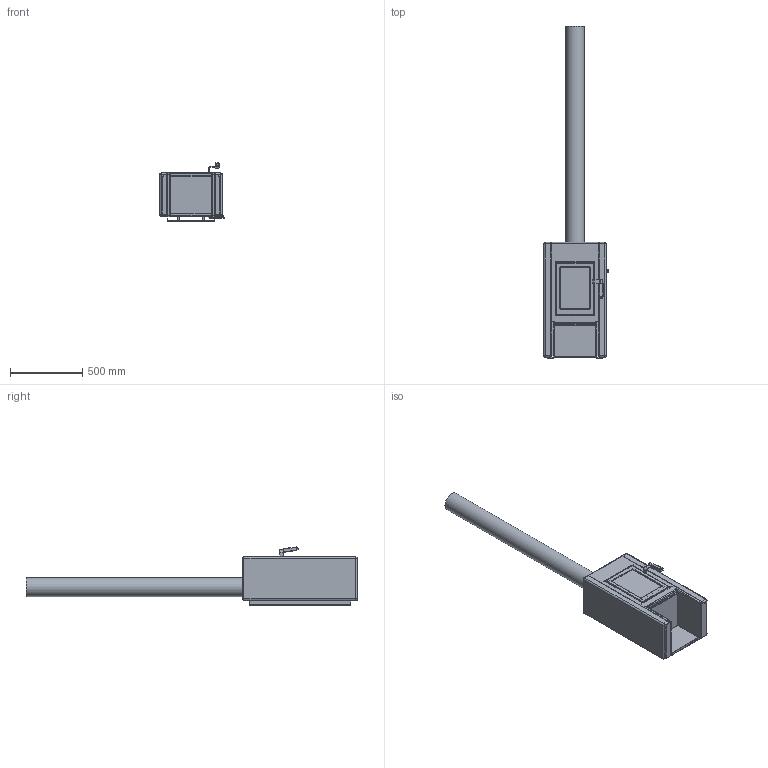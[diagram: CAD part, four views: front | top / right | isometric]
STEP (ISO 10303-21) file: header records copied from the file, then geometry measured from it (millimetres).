
FILE_DESCRIPTION (( 'STEP AP214' ), '1' );
FILE_NAME ('Harrie Leenders Lobbe.STEP', '2017-01-10T08:33:13', ( '' ), ( '' ), 'SwSTEP 2.0', 'SolidWorks 2017', '' );
FILE_SCHEMA (( 'AUTOMOTIVE_DESIGN' ));
Length unit declared in the file: millimetre
Products named in the file (1): Harrie Leenders Lobbe
Bounding box: 446 x 2300 x 403.82 mm (x, y, z)
Volume: 40733705.1 mm3; surface area: 6031780.8 mm2
Topology: 23 solids, 23 shells, 1118 faces, 2927 edges, 1834 vertices
Faces by surface type: plane 582, cylinder 324, bspline 86, sphere 76, cone 46, torus 4
Full cylindrical faces by diameter (mm): 8.8 x1, 21.5 x4, 125 x1, 128 x1, 130 x1, 138.5 x2, 141 x2
Entity records: 41501 total; most frequent: CARTESIAN_POINT 14768, ORIENTED_EDGE 5638, DIRECTION 5234, EDGE_CURVE 2819, VERTEX_POINT 1794, AXIS2_PLACEMENT_3D 1751, VECTOR 1732, LINE 1732
